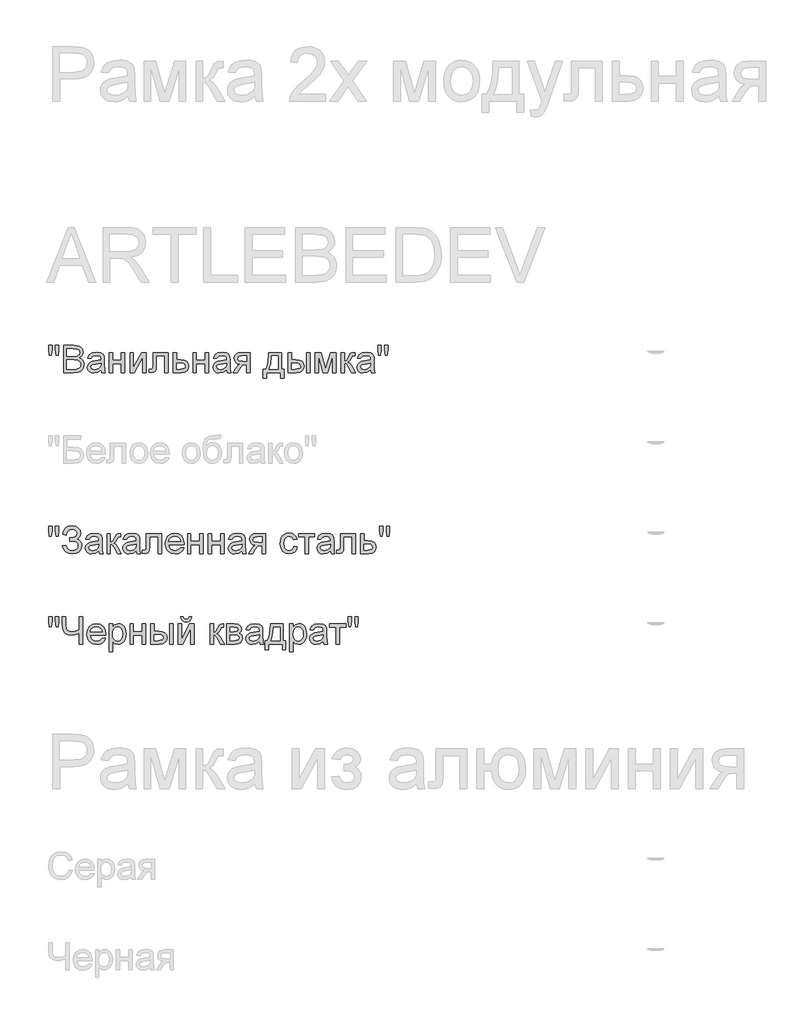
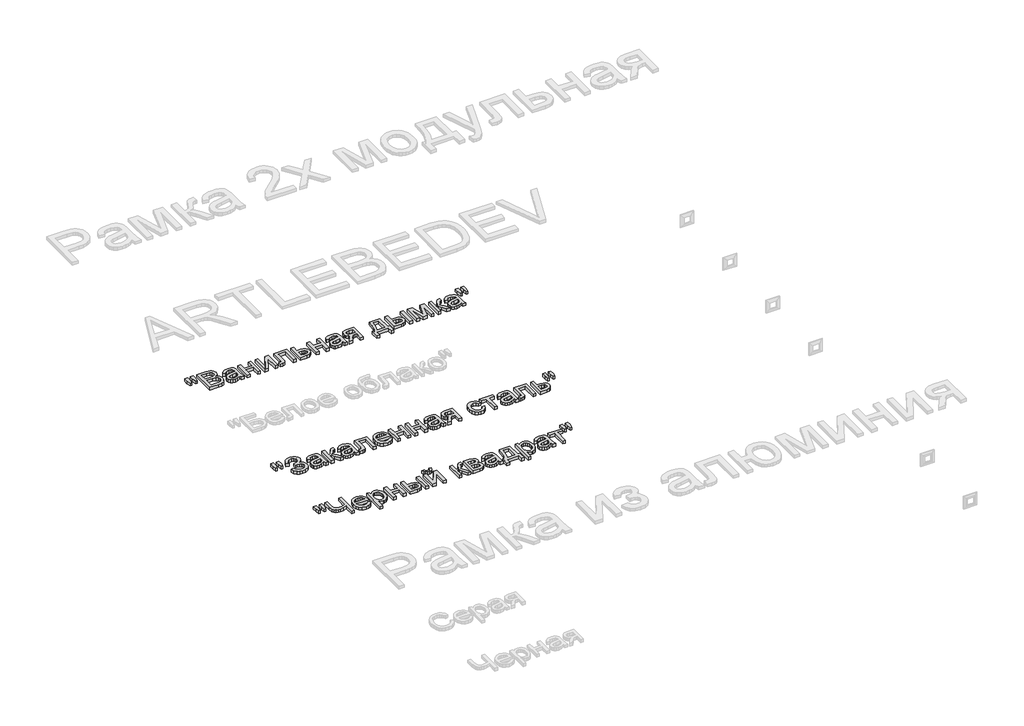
# One storey, part 116 of 168: 3 proxies.
"""IFC4 building model written with IfcOpenShell, lengths in millimetres."""

from ifc_helpers import new_model, si_unit, origin, origin_with_axes, place, context, project, spatial, polyline, outline, extrude, element, save

model = new_model("IFC4")

# Units and contexts
model_context = context("Model", 3, world=origin())
ifc_project = project(units=[si_unit("LENGTHUNIT", "METRE", prefix="MILLI")], contexts=[model_context])

# Site, building, storey
site = spatial("IfcSite", under=ifc_project)
building = spatial("IfcBuilding", under=site)
storey = spatial("IfcBuildingStorey", under=building, Name="Этаж 01", Elevation=0.0)

# Proxies
placement = place(None, origin())
element("IfcBuildingElementProxy", 1, Name="150", ObjectType="150", at=placement, inside=storey, context=model_context, shape_type="SweptSolid", body=[
    extrude(outline(polyline([(32880.1485789, -6451.873446), (32875.550054, -6422.7739802), (32875.550054, -6397.7212163), (32894.3856121, -6397.7212163), (32894.3856121, -6422.7739802), (32890.2653338, -6451.873446), (32880.1485789, -6451.873446)])), origin_with_axes(), (0.0, 0.0, 1.0), 20.0),
    extrude(outline(polyline([(32917.7093306, -6451.873446), (32913.2211703, -6422.7739802), (32913.2211703, -6397.7212163), (32932.0567284, -6397.7212163), (32932.0567284, -6422.7739802), (32927.6421445, -6451.873446), (32917.7093306, -6451.873446)])), origin_with_axes(), (0.0, 0.0, 1.0), 20.0),
    extrude(outline(polyline([(32957.9556209, -6548.4056816), (32957.9556209, -6397.7212163), (33015.4555767, -6397.7212163), (33043.6169435, -6402.1541944), (33053.0807078, -6407.7781904), (33060.2452096, -6415.7842223), (33066.2600803, -6435.0612389), (33061.2017028, -6452.6643923), (33045.9162059, -6466.0001146), (33056.5893823, -6471.5735269), (33064.4758526, -6480.0532069), (33069.3456905, -6490.8781346), (33070.9689698, -6503.48729), (33066.5359918, -6523.7391938), (33055.5547142, -6538.160168), (33039.1655713, -6545.8121135), (33015.0141183, -6548.4056816), (32957.9556209, -6548.4056816)]), holes=[polyline([(32976.791179, -6458.9367803), (33011.1881456, -6458.9367803), (33031.2745025, -6457.3180996), (33043.3594261, -6450.3467358), (33047.4245221, -6438.0778712), (33043.6353376, -6425.7906126), (33032.7828187, -6418.5249432), (33008.5761834, -6416.5567745), (32976.791179, -6416.5567745), (32976.791179, -6458.9367803)]), polyline([(32976.791179, -6529.5701234), (33015.4187885, -6529.5701234), (33029.3983043, -6528.8343594), (33041.2257105, -6524.7324752), (33049.061597, -6516.3631598), (33052.1334117, -6503.671231), (33048.5281681, -6489.0295275), (33036.8479148, -6480.2923302), (33013.5793786, -6477.7723385), (32976.791179, -6477.7723385), (32976.791179, -6529.5701234)])]), origin_with_axes(), (0.0, 0.0, 1.0), 20.0),
    extrude(outline(polyline([(33165.1467606, -6534.279013), (33146.8814195, -6547.0445182), (33126.7030921, -6550.7601263), (33110.9623412, -6548.5252432), (33099.3510657, -6541.8205939), (33092.1911624, -6531.6394596), (33089.804528, -6518.975122), (33093.4097715, -6504.0759012), (33102.8827329, -6493.2601705), (33116.0713024, -6487.079753), (33132.3684748, -6484.2470616), (33165.036396, -6477.7723385), (33165.1467606, -6473.5784838), (33163.8499765, -6465.1723802), (33159.9596244, -6459.6725443), (33151.2592153, -6455.5890542), (33139.1375035, -6454.2278908), (33120.0812162, -6457.8515285), (33110.9945309, -6470.7090042), (33092.1589727, -6468.3545594), (33100.3075589, -6449.9604597), (33116.7150959, -6439.1815172), (33141.5655247, -6435.3923327), (33164.3926025, -6438.7400588), (33177.2868664, -6447.1461624), (33183.0626137, -6459.9300617), (33183.9823187, -6476.4111751), (33183.9823187, -6499.8452582), (33184.9388119, -6532.5683617), (33188.6912083, -6548.4056816), (33169.8556501, -6548.4056816), (33165.1467606, -6534.279013)]), holes=[polyline([(33165.1467606, -6496.6078966), (33134.7597078, -6502.383644), (33118.5545059, -6505.4370645), (33111.2152601, -6510.4034715), (33108.6400861, -6517.6507468), (33114.2502865, -6527.841078), (33130.7130058, -6531.9245682), (33149.7692932, -6527.4180137), (33162.0565518, -6516.5103126), (33165.036396, -6501.9421856), (33165.1467606, -6496.6078966)])]), origin_with_axes(), (0.0, 0.0, 1.0), 20.0),
    extrude(outline(polyline([(33209.8812112, -6437.7467774), (33228.7167693, -6437.7467774), (33228.7167693, -6480.1267833), (33278.1601095, -6480.1267833), (33278.1601095, -6437.7467774), (33296.9956676, -6437.7467774), (33296.9956676, -6548.4056816), (33278.1601095, -6548.4056816), (33278.1601095, -6498.9623414), (33228.7167693, -6498.9623414), (33228.7167693, -6548.4056816), (33209.8812112, -6548.4056816), (33209.8812112, -6437.7467774)])), origin_with_axes(), (0.0, 0.0, 1.0), 20.0),
    extrude(outline(polyline([(33325.2490049, -6437.7467774), (33344.084563, -6437.7467774), (33344.084563, -6522.1389071), (33390.364118, -6437.7467774), (33414.7179061, -6437.7467774), (33414.7179061, -6548.4056816), (33395.8823479, -6548.4056816), (33395.8823479, -6464.5285867), (33349.8970985, -6548.4056816), (33325.2490049, -6548.4056816), (33325.2490049, -6437.7467774)])), origin_with_axes(), (0.0, 0.0, 1.0), 20.0),
    extrude(outline(polyline([(33452.3890224, -6437.7467774), (33537.1490341, -6437.7467774), (33537.1490341, -6548.295317), (33518.3134759, -6548.295317), (33518.3134759, -6456.5823356), (33471.2245806, -6456.5823356), (33471.2245806, -6509.3734019), (33469.9553877, -6533.72719), (33462.9840239, -6544.0094917), (33446.5029105, -6548.4056816), (33431.1990195, -6547.4491884), (33431.1990195, -6529.5701234), (33439.6235172, -6529.5701234), (33448.1399854, -6528.4112951), (33451.5428938, -6524.7324752), (33452.3890224, -6508.3065441), (33452.3890224, -6437.7467774)])), origin_with_axes(), (0.0, 0.0, 1.0), 20.0),
    extrude(outline(polyline([(33565.4023713, -6437.7467774), (33584.2379295, -6437.7467774), (33584.2379295, -6477.7723385), (33605.9429672, -6477.7723385), (33624.7601312, -6480.1313818), (33638.6844648, -6487.2085117), (33647.2929034, -6498.433511), (33650.162383, -6513.2361628), (33647.7205663, -6526.7144394), (33640.395116, -6538.0865916), (33627.6985887, -6545.8259091), (33609.1435405, -6548.4056816), (33565.4023713, -6548.4056816), (33565.4023713, -6437.7467774)]), holes=[polyline([(33584.2379295, -6529.5701234), (33601.8226888, -6529.5701234), (33624.539402, -6525.615392), (33629.6299692, -6520.552416), (33631.3268249, -6513.272951), (33626.3052356, -6501.6846682), (33618.2348244, -6497.8770895), (33604.066769, -6496.6078966), (33584.2379295, -6496.6078966), (33584.2379295, -6529.5701234)])]), origin_with_axes(), (0.0, 0.0, 1.0), 20.0),
    extrude(outline(polyline([(33673.7068307, -6437.7467774), (33692.5423889, -6437.7467774), (33692.5423889, -6480.1267833), (33741.985729, -6480.1267833), (33741.985729, -6437.7467774), (33760.8212872, -6437.7467774), (33760.8212872, -6548.4056816), (33741.985729, -6548.4056816), (33741.985729, -6498.9623414), (33692.5423889, -6498.9623414), (33692.5423889, -6548.4056816), (33673.7068307, -6548.4056816), (33673.7068307, -6437.7467774)])), origin_with_axes(), (0.0, 0.0, 1.0), 20.0),
    extrude(outline(polyline([(33859.7079675, -6534.279013), (33841.4426264, -6547.0445182), (33821.264299, -6550.7601263), (33805.5235481, -6548.5252432), (33793.9122726, -6541.8205939), (33786.7523693, -6531.6394596), (33784.3657349, -6518.975122), (33787.9709784, -6504.0759012), (33797.4439398, -6493.2601705), (33810.6325093, -6487.079753), (33826.9296817, -6484.2470616), (33859.5976029, -6477.7723385), (33859.7079675, -6473.5784838), (33858.4111834, -6465.1723802), (33854.5208313, -6459.6725443), (33845.8204221, -6455.5890542), (33833.6987104, -6454.2278908), (33814.6424231, -6457.8515285), (33805.5557378, -6470.7090042), (33786.7201796, -6468.3545594), (33794.8687658, -6449.9604597), (33811.2763028, -6439.1815172), (33836.1267316, -6435.3923327), (33858.9538094, -6438.7400588), (33871.8480733, -6447.1461624), (33877.6238206, -6459.9300617), (33878.5435256, -6476.4111751), (33878.5435256, -6499.8452582), (33879.5000188, -6532.5683617), (33883.2524152, -6548.4056816), (33864.416857, -6548.4056816), (33859.7079675, -6534.279013)]), holes=[polyline([(33859.7079675, -6496.6078966), (33829.3209147, -6502.383644), (33813.1157128, -6505.4370645), (33805.776467, -6510.4034715), (33803.201293, -6517.6507468), (33808.8114934, -6527.841078), (33825.2742127, -6531.9245682), (33844.3305001, -6527.4180137), (33856.6177587, -6516.5103126), (33859.5976029, -6501.9421856), (33859.7079675, -6496.6078966)])]), origin_with_axes(), (0.0, 0.0, 1.0), 20.0),
    extrude(outline(polyline([(33989.2024298, -6437.7467774), (33989.2024298, -6548.4056816), (33970.3668716, -6548.4056816), (33970.3668716, -6506.0256757), (33960.1029639, -6506.0256757), (33946.1234481, -6508.4169087), (33932.9900609, -6524.4933519), (33917.9804755, -6548.4056816), (33896.2018614, -6548.4056816), (33915.1109959, -6518.1657816), (33923.4619172, -6507.3132627), (33931.1506509, -6502.4940086), (33918.2747811, -6498.5484742), (33909.224884, -6491.0528785), (33903.872201, -6481.0832765), (33902.0879733, -6469.7157228), (33904.5251915, -6456.8214589), (33911.8368462, -6446.6127335), (33923.7654199, -6439.9632664), (33940.0533952, -6437.7467774), (33989.2024298, -6437.7467774)]), holes=[polyline([(33970.3668716, -6456.5823356), (33945.5348369, -6456.5823356), (33932.7095509, -6457.672186), (33925.4300859, -6460.9417372), (33920.9235315, -6471.1504626), (33922.583599, -6478.32876), (33927.5638015, -6483.3089625), (33951.0898551, -6487.1901176), (33970.3668716, -6487.1901176), (33970.3668716, -6456.5823356)])]), origin_with_axes(), (0.0, 0.0, 1.0), 20.0),
    extrude(outline(polyline([(34092.7979996, -6437.7467774), (34163.4313427, -6437.7467774), (34163.4313427, -6529.5701234), (34177.5580113, -6529.5701234), (34177.5580113, -6579.0134636), (34158.7224531, -6579.0134636), (34158.7224531, -6548.4056816), (34081.0257758, -6548.4056816), (34081.0257758, -6579.0134636), (34062.1902176, -6579.0134636), (34062.1902176, -6529.5701234), (34073.9624415, -6529.5701234), (34082.5202964, -6514.105284), (34088.5121744, -6493.6464466), (34092.7979996, -6437.7467774)]), holes=[polyline([(34109.279113, -6456.5823356), (34104.864529, -6499.4957703), (34095.1524444, -6529.5701234), (34144.5957845, -6529.5701234), (34144.5957845, -6456.5823356), (34109.279113, -6456.5823356)])]), origin_with_axes(), (0.0, 0.0, 1.0), 20.0),
    extrude(outline(polyline([(34302.3435841, -6437.7467774), (34321.1791422, -6437.7467774), (34321.1791422, -6548.4056816), (34302.3435841, -6548.4056816), (34302.3435841, -6437.7467774)])), origin_with_axes(), (0.0, 0.0, 1.0), 20.0),
    extrude(outline(polyline([(34198.7480142, -6437.7467774), (34217.5835724, -6437.7467774), (34217.5835724, -6477.7723385), (34240.8705027, -6477.7723385), (34260.9982463, -6480.1313818), (34275.9112627, -6487.2085117), (34285.1405023, -6498.433511), (34288.2169154, -6513.2361628), (34285.637143, -6526.7144394), (34277.8978255, -6538.0865916), (34264.4931253, -6545.8259091), (34244.9172046, -6548.4056816), (34198.7480142, -6548.4056816), (34198.7480142, -6437.7467774)]), holes=[polyline([(34217.5835724, -6529.5701234), (34236.9341653, -6529.5701234), (34261.9133528, -6525.615392), (34267.5143562, -6520.552416), (34269.3813573, -6513.272951), (34263.8447333, -6501.6846682), (34254.9649816, -6497.8770895), (34239.3989747, -6496.6078966), (34217.5835724, -6496.6078966), (34217.5835724, -6529.5701234)])]), origin_with_axes(), (0.0, 0.0, 1.0), 20.0),
    extrude(outline(polyline([(34349.4324794, -6437.7467774), (34381.8428832, -6437.7467774), (34406.8220707, -6526.3327619), (34433.7510327, -6437.7467774), (34464.8002731, -6437.7467774), (34464.8002731, -6548.4056816), (34445.964715, -6548.4056816), (34445.964715, -6459.3046623), (34418.8886001, -6548.4056816), (34394.1669301, -6548.4056816), (34368.2680376, -6455.0372312), (34368.2680376, -6548.4056816), (34349.4324794, -6548.4056816), (34349.4324794, -6437.7467774)])), origin_with_axes(), (0.0, 0.0, 1.0), 20.0),
    extrude(outline(polyline([(34493.0536104, -6437.7467774), (34511.8891685, -6437.7467774), (34511.8891685, -6484.8356728), (34524.5075209, -6481.4511584), (34534.845005, -6461.7326835), (34543.4350496, -6444.7181412), (34551.0134187, -6439.1815172), (34564.7905994, -6437.7467774), (34568.395843, -6437.7467774), (34568.395843, -6456.6927002), (34563.3190714, -6456.5823356), (34554.1220216, -6458.5688983), (34547.6472984, -6470.9665216), (34540.0505352, -6484.3758203), (34529.4003515, -6490.9425139), (34541.2829399, -6498.2725627), (34552.9447992, -6513.7144094), (34573.1047325, -6548.4056816), (34551.6940004, -6548.4056816), (34531.9387373, -6514.4501734), (34522.0059234, -6500.0843815), (34511.8891685, -6496.6078966), (34511.8891685, -6548.4056816), (34493.0536104, -6548.4056816), (34493.0536104, -6437.7467774)])), origin_with_axes(), (0.0, 0.0, 1.0), 20.0),
    extrude(outline(polyline([(34655.5102994, -6534.279013), (34637.2449584, -6547.0445182), (34617.0666309, -6550.7601263), (34601.3258801, -6548.5252432), (34589.7146046, -6541.8205939), (34582.5547013, -6531.6394596), (34580.1680668, -6518.975122), (34583.7733104, -6504.0759012), (34593.2462717, -6493.2601705), (34606.4348413, -6487.079753), (34622.7320137, -6484.2470616), (34655.3999348, -6477.7723385), (34655.5102994, -6473.5784838), (34654.2135154, -6465.1723802), (34650.3231633, -6459.6725443), (34641.6227541, -6455.5890542), (34629.5010424, -6454.2278908), (34610.444755, -6457.8515285), (34601.3580697, -6470.7090042), (34582.5225116, -6468.3545594), (34590.6710978, -6449.9604597), (34607.0786348, -6439.1815172), (34631.9290635, -6435.3923327), (34654.7561413, -6438.7400588), (34667.6504053, -6447.1461624), (34673.4261526, -6459.9300617), (34674.3458576, -6476.4111751), (34674.3458576, -6499.8452582), (34675.3023508, -6532.5683617), (34679.0547471, -6548.4056816), (34660.219189, -6548.4056816), (34655.5102994, -6534.279013)]), holes=[polyline([(34655.5102994, -6496.6078966), (34625.1232466, -6502.383644), (34608.9180447, -6505.4370645), (34601.5787989, -6510.4034715), (34599.003625, -6517.6507468), (34604.6138254, -6527.841078), (34621.0765447, -6531.9245682), (34640.132832, -6527.4180137), (34652.4200907, -6516.5103126), (34655.3999348, -6501.9421856), (34655.5102994, -6496.6078966)])]), origin_with_axes(), (0.0, 0.0, 1.0), 20.0),
    extrude(outline(polyline([(34700.1343854, -6451.873446), (34695.5358605, -6422.7739802), (34695.5358605, -6397.7212163), (34714.3714187, -6397.7212163), (34714.3714187, -6422.7739802), (34710.2511403, -6451.873446), (34700.1343854, -6451.873446)])), origin_with_axes(), (0.0, 0.0, 1.0), 20.0),
    extrude(outline(polyline([(34737.6951372, -6451.873446), (34733.2069768, -6422.7739802), (34733.2069768, -6397.7212163), (34752.042535, -6397.7212163), (34752.042535, -6422.7739802), (34747.627951, -6451.873446), (34737.6951372, -6451.873446)])), origin_with_axes(), (0.0, 0.0, 1.0), 20.0),
])
element("IfcBuildingElementProxy", 2, Name="150", ObjectType="150", at=placement, inside=storey, context=model_context, shape_type="SweptSolid", body=[
    extrude(outline(polyline([(32880.1485789, -7451.873446), (32875.550054, -7422.7739802), (32875.550054, -7397.7212163), (32894.3856121, -7397.7212163), (32894.3856121, -7422.7739802), (32890.2653338, -7451.873446), (32880.1485789, -7451.873446)])), origin_with_axes(), (0.0, 0.0, 1.0), 20.0),
    extrude(outline(polyline([(32917.7093306, -7451.873446), (32913.2211703, -7422.7739802), (32913.2211703, -7397.7212163), (32932.0567284, -7397.7212163), (32932.0567284, -7422.7739802), (32927.6421445, -7451.873446), (32917.7093306, -7451.873446)])), origin_with_axes(), (0.0, 0.0, 1.0), 20.0),
    extrude(outline(polyline([(32950.8922866, -7506.0256757), (32969.7278447, -7501.3167862), (32981.2977335, -7521.7158428), (32992.2284273, -7529.3723868), (33006.2217387, -7531.9245682), (33020.398991, -7530.0069833), (33031.2193202, -7524.2542286), (33038.0757209, -7515.7883442), (33040.3611878, -7505.7313701), (33037.8641888, -7495.1961495), (33030.3731916, -7487.0613589), (33018.5779752, -7481.8604272), (33003.1683181, -7480.1267833), (32993.2722924, -7480.1267833), (32993.2722924, -7461.2912251), (33014.591054, -7459.7645148), (33027.6324708, -7451.9654165), (33033.2978535, -7437.7099892), (33031.4124583, -7428.8394346), (33025.7562726, -7421.2104817), (33016.8811195, -7415.9543677), (33005.3388219, -7414.2023297), (32986.1169876, -7419.591801), (32975.117316, -7433.8840165), (32972.0822895, -7447.1645565), (32953.2467313, -7442.455667), (32959.0983543, -7421.8542752), (32969.7002536, -7407.1389954), (32985.0524291, -7398.3098275), (33005.1548809, -7395.3667716), (33024.5468605, -7398.4247907), (33039.4598769, -7407.5988479), (33048.965028, -7420.8655924), (33052.1334117, -7436.201673), (33047.2037929, -7454.8440931), (33032.4149367, -7468.7592296), (33042.8903765, -7473.5830823), (33051.5080123, -7481.7270699), (33057.2745625, -7492.4922168), (33059.196746, -7505.1795471), (33055.508729, -7523.0172254), (33044.444678, -7537.6819214), (33027.2921799, -7547.4905751), (33005.3388219, -7550.7601263), (32986.2365493, -7547.9642232), (32970.7947025, -7539.5765137), (32959.0132816, -7525.5969979), (32950.8922866, -7506.0256757)])), origin_with_axes(), (0.0, 0.0, 1.0), 20.0),
    extrude(outline(polyline([(33153.3745367, -7534.279013), (33135.1091957, -7547.0445182), (33114.9308682, -7550.7601263), (33099.1901174, -7548.5252432), (33087.5788419, -7541.8205939), (33080.4189386, -7531.6394596), (33078.0323041, -7518.975122), (33081.6375477, -7504.0759012), (33091.110509, -7493.2601705), (33104.2990786, -7487.079753), (33120.596251, -7484.2470616), (33153.2641721, -7477.7723385), (33153.3745367, -7473.5784838), (33152.0777527, -7465.1723802), (33148.1874006, -7459.6725443), (33139.4869914, -7455.5890542), (33127.3652797, -7454.2278908), (33108.3089923, -7457.8515285), (33099.222307, -7470.7090042), (33080.3867489, -7468.3545594), (33088.5353351, -7449.9604597), (33104.9428721, -7439.1815172), (33129.7933008, -7435.3923327), (33152.6203786, -7438.7400588), (33165.5146426, -7447.1461624), (33171.2903899, -7459.9300617), (33172.2100949, -7476.4111751), (33172.2100949, -7499.8452582), (33173.1665881, -7532.5683617), (33176.9189844, -7548.4056816), (33158.0834263, -7548.4056816), (33153.3745367, -7534.279013)]), holes=[polyline([(33153.3745367, -7496.6078966), (33122.9874839, -7502.383644), (33106.782282, -7505.4370645), (33099.4430362, -7510.4034715), (33096.8678623, -7517.6507468), (33102.4780627, -7527.841078), (33118.940782, -7531.9245682), (33137.9970693, -7527.4180137), (33150.284328, -7516.5103126), (33153.2641721, -7501.9421856), (33153.3745367, -7496.6078966)])]), origin_with_axes(), (0.0, 0.0, 1.0), 20.0),
    extrude(outline(polyline([(33198.1089873, -7437.7467774), (33216.9445455, -7437.7467774), (33216.9445455, -7484.8356728), (33229.5628979, -7481.4511584), (33239.900382, -7461.7326835), (33248.4904266, -7444.7181412), (33256.0687957, -7439.1815172), (33269.8459764, -7437.7467774), (33273.4512199, -7437.7467774), (33273.4512199, -7456.6927002), (33268.3744484, -7456.5823356), (33259.1773985, -7458.5688983), (33252.7026754, -7470.9665216), (33245.1059122, -7484.3758203), (33234.4557285, -7490.9425139), (33246.3383169, -7498.2725627), (33258.0001762, -7513.7144094), (33278.1601095, -7548.4056816), (33256.7493774, -7548.4056816), (33236.9941142, -7514.4501734), (33227.0613004, -7500.0843815), (33216.9445455, -7496.6078966), (33216.9445455, -7548.4056816), (33198.1089873, -7548.4056816), (33198.1089873, -7437.7467774)])), origin_with_axes(), (0.0, 0.0, 1.0), 20.0),
    extrude(outline(polyline([(33360.5656764, -7534.279013), (33342.3003353, -7547.0445182), (33322.1220079, -7550.7601263), (33306.381257, -7548.5252432), (33294.7699816, -7541.8205939), (33287.6100782, -7531.6394596), (33285.2234438, -7518.975122), (33288.8286873, -7504.0759012), (33298.3016487, -7493.2601705), (33311.4902183, -7487.079753), (33327.7873906, -7484.2470616), (33360.4553118, -7477.7723385), (33360.5656764, -7473.5784838), (33359.2688924, -7465.1723802), (33355.3785403, -7459.6725443), (33346.6781311, -7455.5890542), (33334.5564193, -7454.2278908), (33315.500132, -7457.8515285), (33306.4134467, -7470.7090042), (33287.5778886, -7468.3545594), (33295.7264748, -7449.9604597), (33312.1340117, -7439.1815172), (33336.9844405, -7435.3923327), (33359.8115183, -7438.7400588), (33372.7057822, -7447.1461624), (33378.4815296, -7459.9300617), (33379.4012346, -7476.4111751), (33379.4012346, -7499.8452582), (33380.3577277, -7532.5683617), (33384.1101241, -7548.4056816), (33365.2745659, -7548.4056816), (33360.5656764, -7534.279013)]), holes=[polyline([(33360.5656764, -7496.6078966), (33330.1786236, -7502.383644), (33313.9734217, -7505.4370645), (33306.6341759, -7510.4034715), (33304.0590019, -7517.6507468), (33309.6692024, -7527.841078), (33326.1319217, -7531.9245682), (33345.188209, -7527.4180137), (33357.4754676, -7516.5103126), (33360.4553118, -7501.9421856), (33360.5656764, -7496.6078966)])]), origin_with_axes(), (0.0, 0.0, 1.0), 20.0),
    extrude(outline(polyline([(33414.7179061, -7437.7467774), (33499.4779178, -7437.7467774), (33499.4779178, -7548.295317), (33480.6423596, -7548.295317), (33480.6423596, -7456.5823356), (33433.5534643, -7456.5823356), (33433.5534643, -7509.3734019), (33432.2842714, -7533.72719), (33425.3129076, -7544.0094917), (33408.8317942, -7548.4056816), (33393.5279032, -7547.4491884), (33393.5279032, -7529.5701234), (33401.9524009, -7529.5701234), (33410.4688691, -7528.4112951), (33413.8717775, -7524.7324752), (33414.7179061, -7508.3065441), (33414.7179061, -7437.7467774)])), origin_with_axes(), (0.0, 0.0, 1.0), 20.0),
    extrude(outline(polyline([(33605.2072032, -7515.4434548), (33623.6748794, -7517.7978996), (33617.0208138, -7531.713036), (33606.4028197, -7542.1148995), (33592.0600204, -7548.5988196), (33574.2315392, -7550.7601263), (33552.1310283, -7547.0307226), (33535.1256831, -7535.8425114), (33524.2823613, -7517.9220597), (33520.6679207, -7493.9959345), (33524.3191495, -7469.2650674), (33535.2728359, -7450.7698), (33552.0482549, -7439.2366995), (33573.1646814, -7435.3923327), (33593.6235189, -7439.2275025), (33609.971275, -7450.7330118), (33620.6904367, -7469.191491), (33624.2634906, -7493.8855699), (33624.153126, -7498.9623414), (33539.5034789, -7498.9623414), (33542.763833, -7513.0614189), (33550.3376036, -7523.4264941), (33561.2682974, -7529.8000497), (33574.5994212, -7531.9245682), (33593.0670974, -7527.9882308), (33605.2072032, -7515.4434548)]), holes=[polyline([(33539.5034789, -7480.1267833), (33605.4279324, -7480.1267833), (33602.8803496, -7470.1755753), (33597.8863515, -7463.0570587), (33586.9050739, -7456.4351828), (33573.091105, -7454.2278908), (33560.3945777, -7455.9891259), (33549.8961452, -7461.272831), (33542.5982861, -7469.5087892), (33539.5034789, -7480.1267833)])]), origin_with_axes(), (0.0, 0.0, 1.0), 20.0),
    extrude(outline(polyline([(33643.0990487, -7437.7467774), (33661.9346069, -7437.7467774), (33661.9346069, -7480.1267833), (33711.377947, -7480.1267833), (33711.377947, -7437.7467774), (33730.2135052, -7437.7467774), (33730.2135052, -7548.4056816), (33711.377947, -7548.4056816), (33711.377947, -7498.9623414), (33661.9346069, -7498.9623414), (33661.9346069, -7548.4056816), (33643.0990487, -7548.4056816), (33643.0990487, -7437.7467774)])), origin_with_axes(), (0.0, 0.0, 1.0), 20.0),
    extrude(outline(polyline([(33758.4668424, -7437.7467774), (33777.3024005, -7437.7467774), (33777.3024005, -7480.1267833), (33826.7457407, -7480.1267833), (33826.7457407, -7437.7467774), (33845.5812988, -7437.7467774), (33845.5812988, -7548.4056816), (33826.7457407, -7548.4056816), (33826.7457407, -7498.9623414), (33777.3024005, -7498.9623414), (33777.3024005, -7548.4056816), (33758.4668424, -7548.4056816), (33758.4668424, -7437.7467774)])), origin_with_axes(), (0.0, 0.0, 1.0), 20.0),
    extrude(outline(polyline([(33944.4679792, -7534.279013), (33926.2026381, -7547.0445182), (33906.0243107, -7550.7601263), (33890.2835598, -7548.5252432), (33878.6722843, -7541.8205939), (33871.512381, -7531.6394596), (33869.1257465, -7518.975122), (33872.7309901, -7504.0759012), (33882.2039515, -7493.2601705), (33895.392521, -7487.079753), (33911.6896934, -7484.2470616), (33944.3576146, -7477.7723385), (33944.4679792, -7473.5784838), (33943.1711951, -7465.1723802), (33939.280843, -7459.6725443), (33930.5804338, -7455.5890542), (33918.4587221, -7454.2278908), (33899.4024347, -7457.8515285), (33890.3157495, -7470.7090042), (33871.4801913, -7468.3545594), (33879.6287775, -7449.9604597), (33896.0363145, -7439.1815172), (33920.8867433, -7435.3923327), (33943.7138211, -7438.7400588), (33956.608085, -7447.1461624), (33962.3838323, -7459.9300617), (33963.3035373, -7476.4111751), (33963.3035373, -7499.8452582), (33964.2600305, -7532.5683617), (33968.0124268, -7548.4056816), (33949.1768687, -7548.4056816), (33944.4679792, -7534.279013)]), holes=[polyline([(33944.4679792, -7496.6078966), (33914.0809264, -7502.383644), (33897.8757245, -7505.4370645), (33890.5364787, -7510.4034715), (33887.9613047, -7517.6507468), (33893.5715051, -7527.841078), (33910.0342244, -7531.9245682), (33929.0905118, -7527.4180137), (33941.3777704, -7516.5103126), (33944.3576146, -7501.9421856), (33944.4679792, -7496.6078966)])]), origin_with_axes(), (0.0, 0.0, 1.0), 20.0),
    extrude(outline(polyline([(34073.9624415, -7437.7467774), (34073.9624415, -7548.4056816), (34055.1268833, -7548.4056816), (34055.1268833, -7506.0256757), (34044.8629756, -7506.0256757), (34030.8834598, -7508.4169087), (34017.7500726, -7524.4933519), (34002.7404872, -7548.4056816), (33980.9618731, -7548.4056816), (33999.8710076, -7518.1657816), (34008.2219289, -7507.3132627), (34015.9106626, -7502.4940086), (34003.0347928, -7498.5484742), (33993.9848957, -7491.0528785), (33988.6322127, -7481.0832765), (33986.847985, -7469.7157228), (33989.2852032, -7456.8214589), (33996.5968579, -7446.6127335), (34008.5254316, -7439.9632664), (34024.8134069, -7437.7467774), (34073.9624415, -7437.7467774)]), holes=[polyline([(34055.1268833, -7456.5823356), (34030.2948486, -7456.5823356), (34017.4695626, -7457.672186), (34010.1900976, -7460.9417372), (34005.6835431, -7471.1504626), (34007.3436107, -7478.32876), (34012.3238132, -7483.3089625), (34035.8498668, -7487.1901176), (34055.1268833, -7487.1901176), (34055.1268833, -7456.5823356)])]), origin_with_axes(), (0.0, 0.0, 1.0), 20.0),
    extrude(outline(polyline([(34231.710241, -7508.3801205), (34250.5457991, -7510.7345653), (34245.2942837, -7527.4869916), (34235.4258491, -7540.1467308), (34221.8693976, -7548.1067774), (34205.5538311, -7550.7601263), (34185.518058, -7547.0583138), (34169.8508835, -7535.952876), (34159.7387272, -7517.9312568), (34156.3680084, -7493.4808997), (34157.8073467, -7476.7192763), (34162.1253616, -7462.192536), (34169.391031, -7450.4616989), (34179.6733328, -7442.087785), (34191.974387, -7437.0661957), (34205.2963137, -7435.3923327), (34221.2118085, -7437.6915951), (34233.9359271, -7444.5893825), (34243.0639991, -7455.7178129), (34248.1913544, -7470.7090042), (34229.3557962, -7473.063449), (34220.6185988, -7458.9551744), (34205.4434665, -7454.2278908), (34193.271171, -7456.5547444), (34183.6096701, -7463.5353053), (34177.3050924, -7475.5466524), (34175.2035665, -7492.9658649), (34177.2591072, -7510.6196021), (34183.4257291, -7522.672336), (34192.9124861, -7529.6115101), (34204.9284317, -7531.9245682), (34214.6819031, -7530.4806314), (34222.678738, -7526.1488209), (34228.4958721, -7518.8187721), (34231.710241, -7508.3801205)])), origin_with_axes(), (0.0, 0.0, 1.0), 20.0),
    extrude(outline(polyline([(34257.6091334, -7437.7467774), (34347.0780347, -7437.7467774), (34347.0780347, -7456.5823356), (34311.7613631, -7456.5823356), (34311.7613631, -7548.4056816), (34292.925805, -7548.4056816), (34292.925805, -7456.5823356), (34257.6091334, -7456.5823356), (34257.6091334, -7437.7467774)])), origin_with_axes(), (0.0, 0.0, 1.0), 20.0),
    extrude(outline(polyline([(34434.1924911, -7534.279013), (34415.9271501, -7547.0445182), (34395.7488226, -7550.7601263), (34380.0080718, -7548.5252432), (34368.3967963, -7541.8205939), (34361.236893, -7531.6394596), (34358.8502585, -7518.975122), (34362.4555021, -7504.0759012), (34371.9284634, -7493.2601705), (34385.117033, -7487.079753), (34401.4142054, -7484.2470616), (34434.0821265, -7477.7723385), (34434.1924911, -7473.5784838), (34432.8957071, -7465.1723802), (34429.005355, -7459.6725443), (34420.3049458, -7455.5890542), (34408.1832341, -7454.2278908), (34389.1269467, -7457.8515285), (34380.0402614, -7470.7090042), (34361.2047033, -7468.3545594), (34369.3532895, -7449.9604597), (34385.7608265, -7439.1815172), (34410.6112552, -7435.3923327), (34433.438333, -7438.7400588), (34446.332597, -7447.1461624), (34452.1083443, -7459.9300617), (34453.0280493, -7476.4111751), (34453.0280493, -7499.8452582), (34453.9845425, -7532.5683617), (34457.7369388, -7548.4056816), (34438.9013807, -7548.4056816), (34434.1924911, -7534.279013)]), holes=[polyline([(34434.1924911, -7496.6078966), (34403.8054383, -7502.383644), (34387.6002364, -7505.4370645), (34380.2609906, -7510.4034715), (34377.6858167, -7517.6507468), (34383.2960171, -7527.841078), (34399.7587364, -7531.9245682), (34418.8150237, -7527.4180137), (34431.1022824, -7516.5103126), (34434.0821265, -7501.9421856), (34434.1924911, -7496.6078966)])]), origin_with_axes(), (0.0, 0.0, 1.0), 20.0),
    extrude(outline(polyline([(34488.3447208, -7437.7467774), (34573.1047325, -7437.7467774), (34573.1047325, -7548.295317), (34554.2691744, -7548.295317), (34554.2691744, -7456.5823356), (34507.180279, -7456.5823356), (34507.180279, -7509.3734019), (34505.9110861, -7533.72719), (34498.9397223, -7544.0094917), (34482.4586089, -7548.4056816), (34467.1547179, -7547.4491884), (34467.1547179, -7529.5701234), (34475.5792156, -7529.5701234), (34484.0956838, -7528.4112951), (34487.4985922, -7524.7324752), (34488.3447208, -7508.3065441), (34488.3447208, -7437.7467774)])), origin_with_axes(), (0.0, 0.0, 1.0), 20.0),
    extrude(outline(polyline([(34601.3580697, -7437.7467774), (34620.1936279, -7437.7467774), (34620.1936279, -7477.7723385), (34641.8986656, -7477.7723385), (34660.7158297, -7480.1313818), (34674.6401632, -7487.2085117), (34683.2486019, -7498.433511), (34686.1180814, -7513.2361628), (34683.6762647, -7526.7144394), (34676.3508145, -7538.0865916), (34663.6542871, -7545.8259091), (34645.099239, -7548.4056816), (34601.3580697, -7548.4056816), (34601.3580697, -7437.7467774)]), holes=[polyline([(34620.1936279, -7529.5701234), (34637.7783873, -7529.5701234), (34660.4951005, -7525.615392), (34665.5856676, -7520.552416), (34667.2825233, -7513.272951), (34662.260934, -7501.6846682), (34654.1905228, -7497.8770895), (34640.0224674, -7496.6078966), (34620.1936279, -7496.6078966), (34620.1936279, -7529.5701234)])]), origin_with_axes(), (0.0, 0.0, 1.0), 20.0),
    extrude(outline(polyline([(34709.5521645, -7451.873446), (34704.9536396, -7422.7739802), (34704.9536396, -7397.7212163), (34723.7891977, -7397.7212163), (34723.7891977, -7422.7739802), (34719.6689194, -7451.873446), (34709.5521645, -7451.873446)])), origin_with_axes(), (0.0, 0.0, 1.0), 20.0),
    extrude(outline(polyline([(34747.1129162, -7451.873446), (34742.6247559, -7422.7739802), (34742.6247559, -7397.7212163), (34761.460314, -7397.7212163), (34761.460314, -7422.7739802), (34757.0457301, -7451.873446), (34747.1129162, -7451.873446)])), origin_with_axes(), (0.0, 0.0, 1.0), 20.0),
])
element("IfcBuildingElementProxy", 3, Name="150", ObjectType="150", at=placement, inside=storey, context=model_context, shape_type="SweptSolid", body=[
    extrude(outline(polyline([(32880.1485789, -7951.873446), (32875.550054, -7922.7739802), (32875.550054, -7897.7212163), (32894.3856121, -7897.7212163), (32894.3856121, -7922.7739802), (32890.2653338, -7951.873446), (32880.1485789, -7951.873446)])), origin_with_axes(), (0.0, 0.0, 1.0), 20.0),
    extrude(outline(polyline([(32917.7093306, -7951.873446), (32913.2211703, -7922.7739802), (32913.2211703, -7897.7212163), (32932.0567284, -7897.7212163), (32932.0567284, -7922.7739802), (32927.6421445, -7951.873446), (32917.7093306, -7951.873446)])), origin_with_axes(), (0.0, 0.0, 1.0), 20.0),
    extrude(outline(polyline([(33063.9056355, -8048.4056816), (33045.0700773, -8048.4056816), (33045.0700773, -7988.0730344), (33020.0908899, -7996.2400147), (32998.4226404, -7998.9623414), (32983.7395502, -7997.0999388), (32970.886673, -7991.512731), (32960.926268, -7983.0606422), (32954.9205944, -7972.6035965), (32950.8922866, -7942.6028198), (32950.8922866, -7897.7212163), (32969.7278447, -7897.7212163), (32969.7278447, -7940.064434), (32971.990319, -7960.4313009), (32978.7777418, -7972.3828673), (32988.7381468, -7978.1908043), (33000.5195677, -7980.1267833), (33022.2521966, -7977.7907326), (33045.0700773, -7970.7825806), (33045.0700773, -7897.7212163), (33063.9056355, -7897.7212163), (33063.9056355, -8048.4056816)])), origin_with_axes(), (0.0, 0.0, 1.0), 20.0),
    extrude(outline(polyline([(33171.9893657, -8015.4434548), (33190.4570418, -8017.7978996), (33183.8029763, -8031.713036), (33173.1849822, -8042.1148995), (33158.8421829, -8048.5988196), (33141.0137017, -8050.7601263), (33118.9131908, -8047.0307226), (33101.9078456, -8035.8425114), (33091.0645238, -8017.9220597), (33087.4500832, -7993.9959345), (33091.101312, -7969.2650674), (33102.0549984, -7950.7698), (33118.8304174, -7939.2366995), (33139.9468439, -7935.3923327), (33160.4056814, -7939.2275025), (33176.7534375, -7950.7330118), (33187.4725992, -7969.191491), (33191.045653, -7993.8855699), (33190.9352884, -7998.9623414), (33106.2856413, -7998.9623414), (33109.5459955, -8013.0614189), (33117.1197661, -8023.4264941), (33128.0504599, -8029.8000497), (33141.3815837, -8031.9245682), (33159.8492598, -8027.9882308), (33171.9893657, -8015.4434548)]), holes=[polyline([(33106.2856413, -7980.1267833), (33172.2100949, -7980.1267833), (33169.6625121, -7970.1755753), (33164.668514, -7963.0570587), (33153.6872364, -7956.4351828), (33139.8732675, -7954.2278908), (33127.1767401, -7955.9891259), (33116.6783077, -7961.272831), (33109.3804486, -7969.5087892), (33106.2856413, -7980.1267833)])]), origin_with_axes(), (0.0, 0.0, 1.0), 20.0),
    extrude(outline(polyline([(33209.8812112, -8090.7856874), (33209.8812112, -7937.7467774), (33228.7167693, -7937.7467774), (33228.7167693, -7956.2144536), (33241.739792, -7940.5978629), (33259.3245513, -7935.3923327), (33272.0624654, -7937.2133485), (33283.2000928, -7942.6763962), (33292.268384, -7951.4503817), (33298.7982894, -7963.2042115), (33304.0590019, -7992.2301009), (33302.5736784, -8008.3387338), (33298.1177077, -8022.7459124), (33290.8336442, -8034.7204713), (33280.8640422, -8043.5312451), (33269.2527667, -8048.952906), (33257.043683, -8050.7601263), (33240.6545401, -8045.9224781), (33228.7167693, -8033.6904018), (33228.7167693, -8090.7856874), (33209.8812112, -8090.7856874)]), holes=[polyline([(33228.7167693, -7993.9591463), (33230.7539159, -8010.8449299), (33236.8653555, -8022.6539419), (33245.8830629, -8029.6069116), (33256.6390128, -8031.9245682), (33267.5697066, -8029.5241382), (33276.8173402, -8022.3228481), (33283.1219179, -8010.0815747), (33285.2234438, -7992.5611947), (33283.1725017, -7975.7673816), (33277.0196753, -7963.7928227), (33268.0157635, -7956.6191238), (33257.411565, -7954.2278908), (33246.7659797, -7956.7708751), (33237.4171785, -7964.399828), (33230.8918716, -7976.8756261), (33228.7167693, -7993.9591463)])]), origin_with_axes(), (0.0, 0.0, 1.0), 20.0),
    extrude(outline(polyline([(33325.2490049, -7937.7467774), (33344.084563, -7937.7467774), (33344.084563, -7980.1267833), (33393.5279032, -7980.1267833), (33393.5279032, -7937.7467774), (33412.3634613, -7937.7467774), (33412.3634613, -8048.4056816), (33393.5279032, -8048.4056816), (33393.5279032, -7998.9623414), (33344.084563, -7998.9623414), (33344.084563, -8048.4056816), (33325.2490049, -8048.4056816), (33325.2490049, -7937.7467774)])), origin_with_axes(), (0.0, 0.0, 1.0), 20.0),
    extrude(outline(polyline([(33544.2123684, -7937.7467774), (33563.0479266, -7937.7467774), (33563.0479266, -8048.4056816), (33544.2123684, -8048.4056816), (33544.2123684, -7937.7467774)])), origin_with_axes(), (0.0, 0.0, 1.0), 20.0),
    extrude(outline(polyline([(33440.6167986, -7937.7467774), (33459.4523567, -7937.7467774), (33459.4523567, -7977.7723385), (33482.739287, -7977.7723385), (33502.8670307, -7980.1313818), (33517.780047, -7987.2085117), (33527.0092866, -7998.433511), (33530.0856998, -8013.2361628), (33527.5059273, -8026.7144394), (33519.7666098, -8038.0865916), (33506.3619096, -8045.8259091), (33486.785989, -8048.4056816), (33440.6167986, -8048.4056816), (33440.6167986, -7937.7467774)]), holes=[polyline([(33459.4523567, -8029.5701234), (33478.8029497, -8029.5701234), (33503.7821371, -8025.615392), (33509.3831405, -8020.552416), (33511.2501416, -8013.272951), (33505.7135176, -8001.6846682), (33496.8337659, -7997.8770895), (33481.267759, -7996.6078966), (33459.4523567, -7996.6078966), (33459.4523567, -8029.5701234)])]), origin_with_axes(), (0.0, 0.0, 1.0), 20.0),
    extrude(outline(polyline([(33591.3012638, -7937.7467774), (33610.1368219, -7937.7467774), (33610.1368219, -8022.1389071), (33656.4163769, -7937.7467774), (33680.770165, -7937.7467774), (33680.770165, -8048.4056816), (33661.9346069, -8048.4056816), (33661.9346069, -7964.5285867), (33615.9493575, -8048.4056816), (33591.3012638, -8048.4056816), (33591.3012638, -7937.7467774)])), origin_with_axes(), (0.0, 0.0, 1.0), 20.0),
    extrude(outline(polyline([(33652.5168278, -7897.7212163), (33666.6434964, -7897.7212163), (33663.6038714, -7909.7831473), (33657.5016288, -7918.672096), (33648.6126801, -7924.1489392), (33637.2129368, -7925.9745536), (33624.8429047, -7924.1627347), (33615.2503817, -7918.7272783), (33608.6928851, -7909.8521251), (33605.4279324, -7897.7212163), (33619.554601, -7897.7212163), (33624.8521017, -7908.3346119), (33635.5206796, -7911.847885), (33647.219327, -7908.4449765), (33652.5168278, -7897.7212163)])), origin_with_axes(), (0.0, 0.0, 1.0), 20.0),
    extrude(outline(polyline([(33767.8846215, -7937.7467774), (33786.7201796, -7937.7467774), (33786.7201796, -7984.8356728), (33799.3385321, -7981.4511584), (33809.6760161, -7961.7326835), (33818.2660607, -7944.7181412), (33825.8444298, -7939.1815172), (33839.6216105, -7937.7467774), (33843.2268541, -7937.7467774), (33843.2268541, -7956.6927002), (33838.1500825, -7956.5823356), (33828.9530327, -7958.5688983), (33822.4783096, -7970.9665216), (33814.8815464, -7984.3758203), (33804.2313626, -7990.9425139), (33816.113951, -7998.2725627), (33827.7758103, -8013.7144094), (33847.9357436, -8048.4056816), (33826.5250115, -8048.4056816), (33806.7697484, -8014.4501734), (33796.8369345, -8000.0843815), (33786.7201796, -7996.6078966), (33786.7201796, -8048.4056816), (33767.8846215, -8048.4056816), (33767.8846215, -7937.7467774)])), origin_with_axes(), (0.0, 0.0, 1.0), 20.0),
    extrude(outline(polyline([(33859.7079675, -7937.7467774), (33901.2050565, -7937.7467774), (33923.9585579, -7940.2667691), (33936.7608514, -7949.5006072), (33942.1135344, -7965.5954445), (33938.8761728, -7978.6736494), (33929.1273, -7987.999458), (33941.7824406, -7998.2081833), (33946.8224239, -8015.9584896), (33943.6310476, -8030.3150845), (33936.0434815, -8040.4226423), (33924.0321343, -8046.4099217), (33907.569415, -8048.4056816), (33859.7079675, -8048.4056816), (33859.7079675, -7937.7467774)]), holes=[polyline([(33878.5435256, -7980.1267833), (33897.1583546, -7980.1267833), (33912.5174279, -7979.1702901), (33919.9854324, -7975.3443173), (33923.2779762, -7968.4281358), (33921.8340394, -7962.8087383), (33917.5022289, -7959.1942977), (33897.7469658, -7956.5823356), (33878.5435256, -7956.5823356), (33878.5435256, -7980.1267833)]), polyline([(33878.5435256, -8029.5701234), (33901.6465149, -8029.5701234), (33922.137542, -8026.167215), (33926.377382, -8021.5273033), (33927.9868658, -8014.4133852), (33924.7678983, -8005.345094), (33916.3801888, -8000.0659874), (33899.8071049, -7998.9623414), (33878.5435256, -7998.9623414), (33878.5435256, -8029.5701234)])]), origin_with_axes(), (0.0, 0.0, 1.0), 20.0),
    extrude(outline(polyline([(34041.0002147, -8034.279013), (34022.7348736, -8047.0445182), (34002.5565462, -8050.7601263), (33986.8157953, -8048.5252432), (33975.2045198, -8041.8205939), (33968.0446165, -8031.6394596), (33965.6579821, -8018.975122), (33969.2632256, -8004.0759012), (33978.736187, -7993.2601705), (33991.9247565, -7987.079753), (34008.2219289, -7984.2470616), (34040.8898501, -7977.7723385), (34041.0002147, -7973.5784838), (34039.7034307, -7965.1723802), (34035.8130786, -7959.6725443), (34027.1126694, -7955.5890542), (34014.9909576, -7954.2278908), (33995.9346703, -7957.8515285), (33986.847985, -7970.7090042), (33968.0124268, -7968.3545594), (33976.161013, -7949.9604597), (33992.56855, -7939.1815172), (34017.4189788, -7935.3923327), (34040.2460566, -7938.7400588), (34053.1403205, -7947.1461624), (34058.9160679, -7959.9300617), (34059.8357728, -7976.4111751), (34059.8357728, -7999.8452582), (34060.792266, -8032.5683617), (34064.5446624, -8048.4056816), (34045.7091042, -8048.4056816), (34041.0002147, -8034.279013)]), holes=[polyline([(34041.0002147, -7996.6078966), (34010.6131619, -8002.383644), (33994.40796, -8005.4370645), (33987.0687142, -8010.4034715), (33984.4935402, -8017.6507468), (33990.1037407, -8027.841078), (34006.5664599, -8031.9245682), (34025.6227473, -8027.4180137), (34037.9100059, -8016.5103126), (34040.8898501, -8001.9421856), (34041.0002147, -7996.6078966)])]), origin_with_axes(), (0.0, 0.0, 1.0), 20.0),
    extrude(outline(polyline([(34102.2157787, -7937.7467774), (34172.8491218, -7937.7467774), (34172.8491218, -8029.5701234), (34186.9757904, -8029.5701234), (34186.9757904, -8079.0134636), (34168.1402322, -8079.0134636), (34168.1402322, -8048.4056816), (34090.4435548, -8048.4056816), (34090.4435548, -8079.0134636), (34071.6079967, -8079.0134636), (34071.6079967, -8029.5701234), (34083.3802205, -8029.5701234), (34091.9380754, -8014.105284), (34097.9299534, -7993.6464466), (34102.2157787, -7937.7467774)]), holes=[polyline([(34118.6968921, -7956.5823356), (34114.2823081, -7999.4957703), (34104.5702235, -8029.5701234), (34154.0135636, -8029.5701234), (34154.0135636, -7956.5823356), (34118.6968921, -7956.5823356)])]), origin_with_axes(), (0.0, 0.0, 1.0), 20.0),
    extrude(outline(polyline([(34208.1657933, -8090.7856874), (34208.1657933, -7937.7467774), (34227.0013514, -7937.7467774), (34227.0013514, -7956.2144536), (34240.0243741, -7940.5978629), (34257.6091334, -7935.3923327), (34270.3470475, -7937.2133485), (34281.4846749, -7942.6763962), (34290.5529661, -7951.4503817), (34297.0828715, -7963.2042115), (34302.3435841, -7992.2301009), (34300.8582605, -8008.3387338), (34296.4022898, -8022.7459124), (34289.1182263, -8034.7204713), (34279.1486243, -8043.5312451), (34267.5373488, -8048.952906), (34255.3282651, -8050.7601263), (34238.9391222, -8045.9224781), (34227.0013514, -8033.6904018), (34227.0013514, -8090.7856874), (34208.1657933, -8090.7856874)]), holes=[polyline([(34227.0013514, -7993.9591463), (34229.038498, -8010.8449299), (34235.1499376, -8022.6539419), (34244.167645, -8029.6069116), (34254.9235949, -8031.9245682), (34265.8542887, -8029.5241382), (34275.1019223, -8022.3228481), (34281.4065, -8010.0815747), (34283.5080259, -7992.5611947), (34281.4570838, -7975.7673816), (34275.3042574, -7963.7928227), (34266.3003456, -7956.6191238), (34255.6961471, -7954.2278908), (34245.0505618, -7956.7708751), (34235.7017606, -7964.399828), (34229.1764537, -7976.8756261), (34227.0013514, -7993.9591463)])]), origin_with_axes(), (0.0, 0.0, 1.0), 20.0),
    extrude(outline(polyline([(34394.1669301, -8034.279013), (34375.901589, -8047.0445182), (34355.7232616, -8050.7601263), (34339.9825107, -8048.5252432), (34328.3712352, -8041.8205939), (34321.2113319, -8031.6394596), (34318.8246974, -8018.975122), (34322.429941, -8004.0759012), (34331.9029024, -7993.2601705), (34345.0914719, -7987.079753), (34361.3886443, -7984.2470616), (34394.0565655, -7977.7723385), (34394.1669301, -7973.5784838), (34392.870146, -7965.1723802), (34388.9797939, -7959.6725443), (34380.2793847, -7955.5890542), (34368.157673, -7954.2278908), (34349.1013856, -7957.8515285), (34340.0147004, -7970.7090042), (34321.1791422, -7968.3545594), (34329.3277284, -7949.9604597), (34345.7352654, -7939.1815172), (34370.5856942, -7935.3923327), (34393.412772, -7938.7400588), (34406.3070359, -7947.1461624), (34412.0827832, -7959.9300617), (34413.0024882, -7976.4111751), (34413.0024882, -7999.8452582), (34413.9589814, -8032.5683617), (34417.7113777, -8048.4056816), (34398.8758196, -8048.4056816), (34394.1669301, -8034.279013)]), holes=[polyline([(34394.1669301, -7996.6078966), (34363.7798773, -8002.383644), (34347.5746754, -8005.4370645), (34340.2354296, -8010.4034715), (34337.6602556, -8017.6507468), (34343.270456, -8027.841078), (34359.7331753, -8031.9245682), (34378.7894627, -8027.4180137), (34391.0767213, -8016.5103126), (34394.0565655, -8001.9421856), (34394.1669301, -7996.6078966)])]), origin_with_axes(), (0.0, 0.0, 1.0), 20.0),
    extrude(outline(polyline([(34429.4836016, -7937.7467774), (34518.9525028, -7937.7467774), (34518.9525028, -7956.5823356), (34483.6358313, -7956.5823356), (34483.6358313, -8048.4056816), (34464.8002731, -8048.4056816), (34464.8002731, -7956.5823356), (34429.4836016, -7956.5823356), (34429.4836016, -7937.7467774)])), origin_with_axes(), (0.0, 0.0, 1.0), 20.0),
    extrude(outline(polyline([(34535.3232516, -7951.873446), (34530.7247267, -7922.7739802), (34530.7247267, -7897.7212163), (34549.5602848, -7897.7212163), (34549.5602848, -7922.7739802), (34545.4400065, -7951.873446), (34535.3232516, -7951.873446)])), origin_with_axes(), (0.0, 0.0, 1.0), 20.0),
    extrude(outline(polyline([(34572.8840033, -7951.873446), (34568.395843, -7922.7739802), (34568.395843, -7897.7212163), (34587.2314011, -7897.7212163), (34587.2314011, -7922.7739802), (34582.8168172, -7951.873446), (34572.8840033, -7951.873446)])), origin_with_axes(), (0.0, 0.0, 1.0), 20.0),
])

save(model, "model.ifc")
